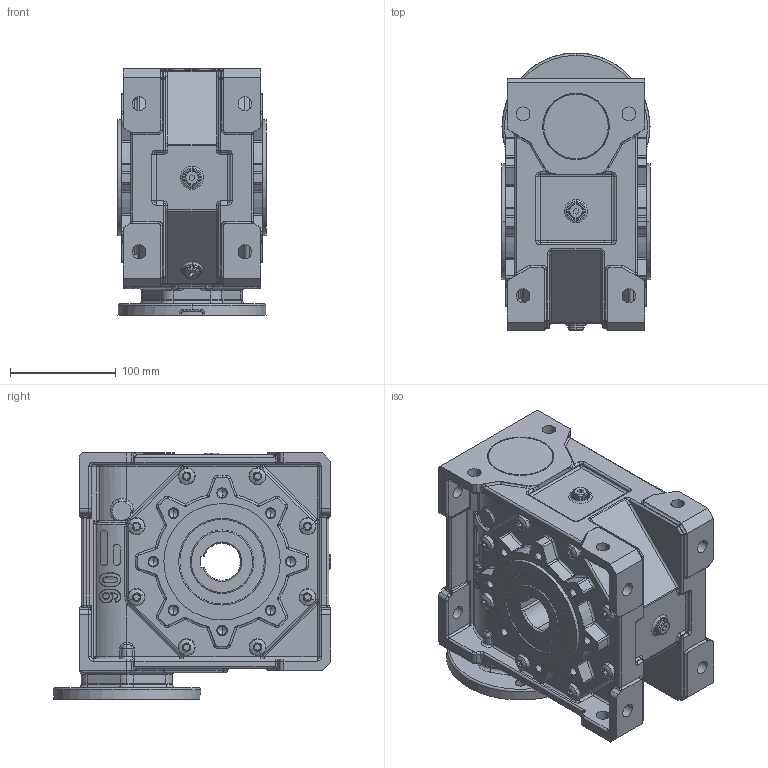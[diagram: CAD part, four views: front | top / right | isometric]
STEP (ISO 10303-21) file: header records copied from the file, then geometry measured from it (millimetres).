
FILE_DESCRIPTION (( 'STEP AP214' ), '1' );
FILE_NAME ('MKT90-FTRL-90-115.STEP', '2006-05-10T12:16:46', ( '' ), ( '' ), 'SwSTEP 2.0', 'SolidWorks 2004146', '' );
FILE_SCHEMA (( 'AUTOMOTIVE_DESIGN' ));
Length unit declared in the file: millimetre
Products named in the file (4): Skrin MKT90_MKT90 AP90; pøíruba115 d72 MRT80a_Výchozí; MKT90-FTRL-90-115; D6912_Šroub DIN 6912 - M6x25
Assembly tree (8 placements, depth 2):
  MKT90-FTRL-90-115
    D6912_Šroub DIN 6912 - M6x25  x6
    pøíruba115 d72 MRT80a_Výchozí
    Skrin MKT90_MKT90 AP90
Bounding box: 140 x 262.81 x 233 mm (x, y, z)
Volume: 4927169.4 mm3; surface area: 365892.8 mm2
Topology: 8 solids, 8 shells, 2461 faces, 5921 edges, 3399 vertices
Faces by surface type: cylinder 904, plane 452, torus 448, bspline 311, cone 199, sphere 147
Entity records: 247373 total; most frequent: CARTESIAN_POINT 191619, DIRECTION 11284, ORIENTED_EDGE 10782, EDGE_CURVE 5391, AXIS2_PLACEMENT_3D 4725, VERTEX_POINT 3214, CIRCLE 2749, EDGE_LOOP 2421
